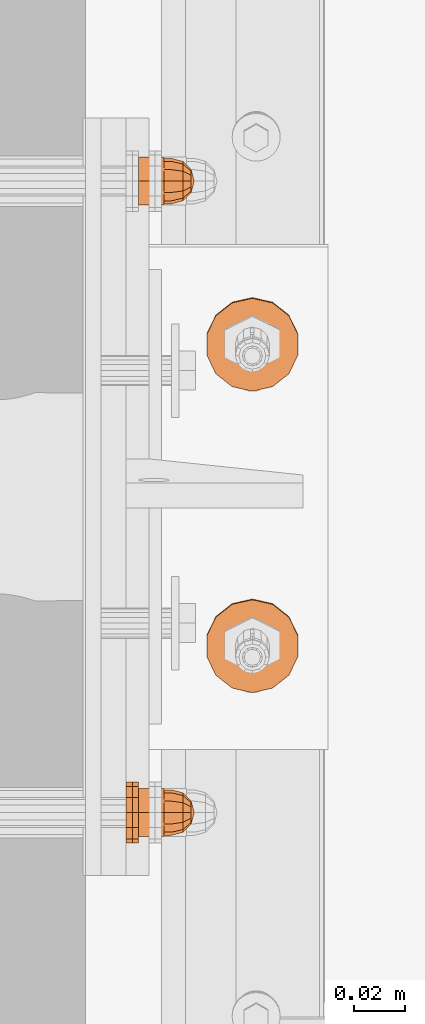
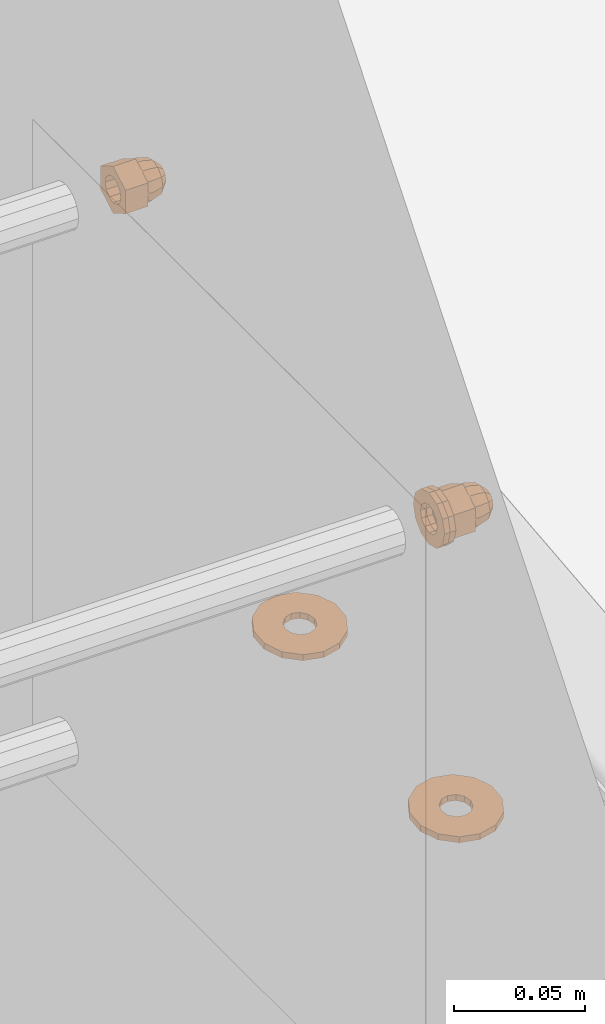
# One storey, part 108 of 162: 6 proxies.
"""IFC2X3 building model written with IfcOpenShell, lengths in millimetres."""

from ifc_helpers import new_model, entity, si_unit, converted_unit, origin_with_axes, place, context, project, spatial, faceted_brep, material, element, save


model = new_model("IFC2X3")

# Units and contexts
model_context = context("Model", 3, precision=1e-09, world=origin_with_axes())
ifc_project = project(units=[si_unit("LENGTHUNIT", "METRE", prefix="MILLI"), si_unit("AREAUNIT", "SQUARE_METRE"), si_unit("VOLUMEUNIT", "CUBIC_METRE"), converted_unit("PLANEANGLEUNIT", "DEGREE", entity("IfcPlaneAngleMeasure", 0.01745329), si_unit("PLANEANGLEUNIT", "RADIAN"), dimensions=[0, 0, 0, 0, 0, 0, 0])], contexts=[model_context])

# Site, building, storey
site_placement = place(None, origin_with_axes())
site = spatial("IfcSite", under=ifc_project, at=site_placement, Name="Hermannstra?e 1a, 60318 Frankfurt", CompositionType="ELEMENT")
building_placement = place(site_placement, origin_with_axes())
building = spatial("IfcBuilding", under=site, at=building_placement, Name="Struktur 1", CompositionType="ELEMENT")
storey_placement = place(building_placement, origin_with_axes())
storey = spatial("IfcBuildingStorey", under=building, at=storey_placement, Name="Default Storey", CompositionType="ELEMENT", Elevation=0.0)

# Proxies
ifc_material_1 = material(Name="A4")
proxy_1_placement = place(None, origin_with_axes())
element("IfcBuildingElementProxy", 1, at=proxy_1_placement, inside=storey, material=ifc_material_1, ObjectType="-", context=model_context, shape_type="Brep", body=[
    faceted_brep([(2544.30936482, 1936.610081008, 17485.045442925), (2554.30936482, 1936.610081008, 17485.045442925), (2554.30936482, 1935.806233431, 17488.045442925), (2544.30936482, 1935.806233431, 17488.045442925), (2554.30936482, 1933.610081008, 17490.241595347), (2544.30936482, 1933.610081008, 17490.241595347), (2544.30936482, 1935.806233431, 17482.045442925), (2554.30936482, 1935.806233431, 17482.045442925), (2544.30936482, 1940.089950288, 17479.572237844), (2544.30936482, 1930.610081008, 17474.099032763), (2544.30936482, 1921.130211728, 17479.572237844), (2544.30936482, 1921.130211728, 17490.518648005), (2544.30936482, 1930.610081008, 17495.991853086), (2544.30936482, 1940.089950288, 17490.518648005), (2544.30936482, 1933.610081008, 17479.849290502), (2544.30936482, 1930.610081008, 17491.045442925), (2544.30936482, 1927.610081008, 17490.241595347), (2544.30936482, 1925.413928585, 17488.045442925), (2544.30936482, 1924.610081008, 17485.045442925), (2544.30936482, 1925.413928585, 17482.045442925), (2544.30936482, 1927.610081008, 17479.849290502), (2544.30936482, 1930.610081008, 17479.045442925), (2554.30936482, 1930.610081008, 17474.099032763), (2554.30936482, 1940.089950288, 17479.572237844), (2554.30936482, 1940.089950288, 17490.518648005), (2554.30936482, 1930.610081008, 17495.991853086), (2554.30936482, 1921.130211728, 17490.518648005), (2554.30936482, 1921.130211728, 17479.572237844), (2554.30936482, 1933.610081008, 17479.849290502), (2554.30936482, 1930.610081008, 17479.045442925), (2554.30936482, 1927.610081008, 17479.849290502), (2554.30936482, 1925.413928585, 17482.045442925), (2554.30936482, 1924.610081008, 17485.045442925), (2554.30936482, 1925.413928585, 17488.045442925), (2554.30936482, 1927.610081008, 17490.241595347), (2554.30936482, 1930.610081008, 17491.045442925)], [[[0, 1, 2, 3]], [[3, 2, 4, 5]], [[1, 0, 6, 7]], [[8, 9, 10, 11, 12, 13], [14, 6, 0, 3, 5, 15, 16, 17, 18, 19, 20, 21]], [[22, 23, 24, 25, 26, 27], [1, 7, 28, 29, 30, 31, 32, 33, 34, 35, 4, 2]], [[7, 6, 14, 28]], [[24, 23, 8, 13]], [[5, 4, 35, 15]], [[13, 12, 25, 24]], [[28, 14, 21, 29]], [[23, 22, 9, 8]], [[15, 35, 34, 16]], [[12, 11, 26, 25]], [[29, 21, 20, 30]], [[22, 27, 10, 9]], [[16, 34, 33, 17]], [[27, 26, 11, 10]], [[30, 20, 19, 31]], [[17, 33, 32, 18]], [[31, 19, 18, 32]]]),
    faceted_brep([(2554.30936482, 1930.610081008, 17476.045442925), (2557.30936482, 1930.610081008, 17476.045442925), (2557.30936482, 1926.110081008, 17477.251214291), (2554.30936482, 1926.110081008, 17477.251214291), (2554.30936482, 1935.110081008, 17477.251214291), (2557.30936482, 1935.110081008, 17477.251214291), (2557.30936482, 1938.404309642, 17489.545442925), (2557.30936482, 1935.110081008, 17492.839671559), (2557.30936482, 1930.610081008, 17494.045442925), (2557.30936482, 1926.110081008, 17492.839671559), (2557.30936482, 1922.815852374, 17489.545442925), (2557.30936482, 1921.610081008, 17485.045442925), (2557.30936482, 1922.815852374, 17480.545442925), (2557.30936482, 1938.404309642, 17480.545442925), (2557.30936482, 1939.610081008, 17485.045442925), (2554.30936482, 1922.815852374, 17489.545442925), (2554.30936482, 1926.110081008, 17492.839671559), (2554.30936482, 1930.610081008, 17494.045442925), (2554.30936482, 1935.110081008, 17492.839671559), (2554.30936482, 1938.404309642, 17489.545442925), (2554.30936482, 1939.610081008, 17485.045442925), (2554.30936482, 1938.404309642, 17480.545442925), (2554.30936482, 1922.815852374, 17480.545442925), (2554.30936482, 1921.610081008, 17485.045442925)], [[[0, 1, 2, 3]], [[1, 0, 4, 5]], [[6, 7, 8, 9, 10, 11, 12, 2, 1, 5, 13, 14]], [[15, 16, 17, 18, 19, 20, 21, 4, 0, 3, 22, 23]], [[3, 2, 12, 22]], [[5, 4, 21, 13]], [[22, 12, 11, 23]], [[13, 21, 20, 14]], [[7, 18, 17, 8]], [[19, 6, 14, 20]], [[18, 7, 6, 19]], [[23, 11, 10, 15]], [[8, 17, 16, 9]], [[15, 10, 9, 16]]]),
    faceted_brep([(2557.30936482, 1938.404309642, 17480.545442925), (2561.80936482, 1937.360081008, 17481.148328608), (2561.80936482, 1934.507195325, 17478.295442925), (2557.30936482, 1935.110081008, 17477.251214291), (2557.30936482, 1922.815852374, 17489.545442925), (2557.30936482, 1926.110081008, 17492.839671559), (2557.30936482, 1930.610081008, 17494.045442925), (2557.30936482, 1935.110081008, 17492.839671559), (2557.30936482, 1938.404309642, 17489.545442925), (2557.30936482, 1939.610081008, 17485.045442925), (2557.30936482, 1930.610081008, 17476.045442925), (2557.30936482, 1926.110081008, 17477.251214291), (2557.30936482, 1922.815852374, 17480.545442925), (2557.30936482, 1921.610081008, 17485.045442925), (2561.80936482, 1930.610081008, 17477.251214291), (2561.80936482, 1938.404309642, 17485.045442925), (2565.103593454, 1935.110081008, 17485.045442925), (2565.103593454, 1934.507195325, 17482.795442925), (2561.80936482, 1926.712966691, 17478.295442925), (2565.103593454, 1932.860081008, 17481.148328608), (2561.80936482, 1937.360081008, 17488.942557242), (2565.103593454, 1934.507195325, 17487.295442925), (2565.103593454, 1930.610081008, 17480.545442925), (2566.30936482, 1930.610081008, 17485.045442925), (2561.80936482, 1934.507195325, 17491.795442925), (2565.103593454, 1932.860081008, 17488.942557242), (2561.80936482, 1930.610081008, 17492.839671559), (2561.80936482, 1923.860081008, 17481.148328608), (2565.103593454, 1928.360081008, 17481.148328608), (2565.103593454, 1930.610081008, 17489.545442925), (2561.80936482, 1926.712966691, 17491.795442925), (2565.103593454, 1928.360081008, 17488.942557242), (2561.80936482, 1922.815852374, 17485.045442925), (2565.103593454, 1926.712966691, 17482.795442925), (2561.80936482, 1923.860081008, 17488.942557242), (2565.103593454, 1926.712966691, 17487.295442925), (2565.103593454, 1926.110081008, 17485.045442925)], [[[0, 1, 2, 3]], [[4, 5, 6, 7, 8, 9, 0, 3, 10, 11, 12, 13]], [[3, 2, 14, 10]], [[15, 16, 17, 1]], [[1, 0, 9, 15]], [[10, 14, 18, 11]], [[1, 17, 19, 2]], [[16, 15, 20, 21]], [[2, 19, 22, 14]], [[23, 17, 16]], [[24, 25, 21, 20]], [[23, 16, 21]], [[24, 7, 6, 26]], [[20, 8, 7, 24]], [[15, 9, 8, 20]], [[11, 18, 27, 12]], [[14, 22, 28, 18]], [[23, 19, 17]], [[26, 29, 25, 24]], [[23, 21, 25]], [[23, 22, 19]], [[26, 6, 5, 30]], [[29, 26, 30, 31]], [[23, 25, 29]], [[12, 27, 32, 13]], [[18, 28, 33, 27]], [[23, 28, 22]], [[23, 29, 31]], [[23, 33, 28]], [[30, 5, 4, 34]], [[31, 30, 34, 35]], [[23, 31, 35]], [[13, 32, 34, 4]], [[27, 33, 36, 32]], [[23, 36, 33]], [[23, 35, 36]], [[35, 34, 32, 36]]]),
])
proxy_2_placement = place(None, origin_with_axes())
element("IfcBuildingElementProxy", 2, at=proxy_2_placement, inside=storey, material=ifc_material_1, ObjectType="-", context=model_context, shape_type="Brep", body=[
    faceted_brep([(2544.30936482, 1686.610081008, 17485.045442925), (2554.30936482, 1686.610081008, 17485.045442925), (2554.30936482, 1685.806233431, 17488.045442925), (2544.30936482, 1685.806233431, 17488.045442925), (2554.30936482, 1683.610081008, 17490.241595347), (2544.30936482, 1683.610081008, 17490.241595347), (2544.30936482, 1685.806233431, 17482.045442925), (2554.30936482, 1685.806233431, 17482.045442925), (2544.30936482, 1690.089950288, 17479.572237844), (2544.30936482, 1680.610081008, 17474.099032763), (2544.30936482, 1671.130211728, 17479.572237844), (2544.30936482, 1671.130211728, 17490.518648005), (2544.30936482, 1680.610081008, 17495.991853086), (2544.30936482, 1690.089950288, 17490.518648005), (2544.30936482, 1683.610081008, 17479.849290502), (2544.30936482, 1680.610081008, 17491.045442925), (2544.30936482, 1677.610081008, 17490.241595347), (2544.30936482, 1675.413928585, 17488.045442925), (2544.30936482, 1674.610081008, 17485.045442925), (2544.30936482, 1675.413928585, 17482.045442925), (2544.30936482, 1677.610081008, 17479.849290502), (2544.30936482, 1680.610081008, 17479.045442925), (2554.30936482, 1680.610081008, 17474.099032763), (2554.30936482, 1690.089950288, 17479.572237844), (2554.30936482, 1690.089950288, 17490.518648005), (2554.30936482, 1680.610081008, 17495.991853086), (2554.30936482, 1671.130211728, 17490.518648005), (2554.30936482, 1671.130211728, 17479.572237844), (2554.30936482, 1683.610081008, 17479.849290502), (2554.30936482, 1680.610081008, 17479.045442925), (2554.30936482, 1677.610081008, 17479.849290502), (2554.30936482, 1675.413928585, 17482.045442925), (2554.30936482, 1674.610081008, 17485.045442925), (2554.30936482, 1675.413928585, 17488.045442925), (2554.30936482, 1677.610081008, 17490.241595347), (2554.30936482, 1680.610081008, 17491.045442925)], [[[0, 1, 2, 3]], [[3, 2, 4, 5]], [[1, 0, 6, 7]], [[8, 9, 10, 11, 12, 13], [14, 6, 0, 3, 5, 15, 16, 17, 18, 19, 20, 21]], [[22, 23, 24, 25, 26, 27], [1, 7, 28, 29, 30, 31, 32, 33, 34, 35, 4, 2]], [[7, 6, 14, 28]], [[24, 23, 8, 13]], [[5, 4, 35, 15]], [[13, 12, 25, 24]], [[28, 14, 21, 29]], [[23, 22, 9, 8]], [[15, 35, 34, 16]], [[12, 11, 26, 25]], [[29, 21, 20, 30]], [[22, 27, 10, 9]], [[16, 34, 33, 17]], [[27, 26, 11, 10]], [[30, 20, 19, 31]], [[17, 33, 32, 18]], [[31, 19, 18, 32]]]),
    faceted_brep([(2554.30936482, 1680.610081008, 17476.045442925), (2557.30936482, 1680.610081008, 17476.045442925), (2557.30936482, 1676.110081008, 17477.251214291), (2554.30936482, 1676.110081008, 17477.251214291), (2554.30936482, 1685.110081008, 17477.251214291), (2557.30936482, 1685.110081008, 17477.251214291), (2557.30936482, 1688.404309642, 17489.545442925), (2557.30936482, 1685.110081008, 17492.839671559), (2557.30936482, 1680.610081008, 17494.045442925), (2557.30936482, 1676.110081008, 17492.839671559), (2557.30936482, 1672.815852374, 17489.545442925), (2557.30936482, 1671.610081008, 17485.045442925), (2557.30936482, 1672.815852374, 17480.545442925), (2557.30936482, 1688.404309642, 17480.545442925), (2557.30936482, 1689.610081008, 17485.045442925), (2554.30936482, 1672.815852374, 17489.545442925), (2554.30936482, 1676.110081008, 17492.839671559), (2554.30936482, 1680.610081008, 17494.045442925), (2554.30936482, 1685.110081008, 17492.839671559), (2554.30936482, 1688.404309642, 17489.545442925), (2554.30936482, 1689.610081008, 17485.045442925), (2554.30936482, 1688.404309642, 17480.545442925), (2554.30936482, 1672.815852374, 17480.545442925), (2554.30936482, 1671.610081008, 17485.045442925)], [[[0, 1, 2, 3]], [[1, 0, 4, 5]], [[6, 7, 8, 9, 10, 11, 12, 2, 1, 5, 13, 14]], [[15, 16, 17, 18, 19, 20, 21, 4, 0, 3, 22, 23]], [[3, 2, 12, 22]], [[5, 4, 21, 13]], [[22, 12, 11, 23]], [[13, 21, 20, 14]], [[7, 18, 17, 8]], [[19, 6, 14, 20]], [[18, 7, 6, 19]], [[23, 11, 10, 15]], [[8, 17, 16, 9]], [[15, 10, 9, 16]]]),
    faceted_brep([(2557.30936482, 1688.404309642, 17480.545442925), (2561.80936482, 1687.360081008, 17481.148328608), (2561.80936482, 1684.507195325, 17478.295442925), (2557.30936482, 1685.110081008, 17477.251214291), (2557.30936482, 1672.815852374, 17489.545442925), (2557.30936482, 1676.110081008, 17492.839671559), (2557.30936482, 1680.610081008, 17494.045442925), (2557.30936482, 1685.110081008, 17492.839671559), (2557.30936482, 1688.404309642, 17489.545442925), (2557.30936482, 1689.610081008, 17485.045442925), (2557.30936482, 1680.610081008, 17476.045442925), (2557.30936482, 1676.110081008, 17477.251214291), (2557.30936482, 1672.815852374, 17480.545442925), (2557.30936482, 1671.610081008, 17485.045442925), (2561.80936482, 1680.610081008, 17477.251214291), (2561.80936482, 1688.404309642, 17485.045442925), (2565.103593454, 1685.110081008, 17485.045442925), (2565.103593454, 1684.507195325, 17482.795442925), (2561.80936482, 1676.712966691, 17478.295442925), (2565.103593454, 1682.860081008, 17481.148328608), (2561.80936482, 1687.360081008, 17488.942557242), (2565.103593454, 1684.507195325, 17487.295442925), (2565.103593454, 1680.610081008, 17480.545442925), (2566.30936482, 1680.610081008, 17485.045442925), (2561.80936482, 1684.507195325, 17491.795442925), (2565.103593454, 1682.860081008, 17488.942557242), (2561.80936482, 1680.610081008, 17492.839671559), (2561.80936482, 1673.860081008, 17481.148328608), (2565.103593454, 1678.360081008, 17481.148328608), (2565.103593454, 1680.610081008, 17489.545442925), (2561.80936482, 1676.712966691, 17491.795442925), (2565.103593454, 1678.360081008, 17488.942557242), (2561.80936482, 1672.815852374, 17485.045442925), (2565.103593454, 1676.712966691, 17482.795442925), (2561.80936482, 1673.860081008, 17488.942557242), (2565.103593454, 1676.712966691, 17487.295442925), (2565.103593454, 1676.110081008, 17485.045442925)], [[[0, 1, 2, 3]], [[4, 5, 6, 7, 8, 9, 0, 3, 10, 11, 12, 13]], [[3, 2, 14, 10]], [[15, 16, 17, 1]], [[1, 0, 9, 15]], [[10, 14, 18, 11]], [[1, 17, 19, 2]], [[16, 15, 20, 21]], [[2, 19, 22, 14]], [[23, 17, 16]], [[24, 25, 21, 20]], [[23, 16, 21]], [[24, 7, 6, 26]], [[20, 8, 7, 24]], [[15, 9, 8, 20]], [[11, 18, 27, 12]], [[14, 22, 28, 18]], [[23, 19, 17]], [[26, 29, 25, 24]], [[23, 21, 25]], [[23, 22, 19]], [[26, 6, 5, 30]], [[29, 26, 30, 31]], [[23, 25, 29]], [[12, 27, 32, 13]], [[18, 28, 33, 27]], [[23, 28, 22]], [[23, 29, 31]], [[23, 33, 28]], [[30, 5, 4, 34]], [[31, 30, 34, 35]], [[23, 31, 35]], [[13, 32, 34, 4]], [[27, 33, 36, 32]], [[23, 36, 33]], [[23, 35, 36]], [[35, 34, 32, 36]]]),
])
ifc_material_2 = material(Name="S235JR")
proxy_3_placement = place(None, origin_with_axes())
element("IfcBuildingElementProxy", 3, at=proxy_3_placement, inside=storey, material=ifc_material_2, ObjectType="-", context=model_context, shape_type="Brep", body=[
    faceted_brep([(2603.773247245, 1854.64624866, 17302.155285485), (2603.773247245, 1854.33266327, 17305.138851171), (2597.336213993, 1849.227421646, 17304.602268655), (2597.336213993, 1849.541007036, 17301.618702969), (2607.345531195, 1870.211708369, 17303.791281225), (2607.345531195, 1862.023536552, 17302.930669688), (2589.309364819, 1847.718967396, 17301.427198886), (2581.282515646, 1849.541007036, 17301.618702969), (2574.845482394, 1854.64624866, 17302.155285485), (2571.273198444, 1862.023536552, 17302.930669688), (2571.273198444, 1870.211708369, 17303.791281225), (2574.845482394, 1877.588996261, 17304.566665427), (2581.282515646, 1882.694237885, 17305.103247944), (2589.309364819, 1884.516277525, 17305.294752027), (2597.336213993, 1882.694237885, 17305.103247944), (2603.773247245, 1877.588996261, 17304.566665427), (2594.938529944, 1862.8854263, 17303.02125795), (2595.809364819, 1866.11762246, 17303.360975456), (2594.938529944, 1869.34981862, 17303.700692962), (2592.559364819, 1871.715950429, 17303.949383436), (2589.309364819, 1872.58201478, 17304.040410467), (2586.059364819, 1871.715950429, 17303.949383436), (2583.680199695, 1869.34981862, 17303.700692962), (2582.809364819, 1866.11762246, 17303.360975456), (2583.680199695, 1862.8854263, 17303.02125795), (2586.059364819, 1860.519294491, 17302.772567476), (2589.309364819, 1859.653230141, 17302.681540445), (2592.559364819, 1860.519294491, 17302.772567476), (2581.282515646, 1849.227421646, 17304.602268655), (2589.309364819, 1847.405382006, 17304.410764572), (2607.345531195, 1861.709951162, 17305.914235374), (2607.345531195, 1869.898122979, 17306.774846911), (2603.773247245, 1877.275410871, 17307.550231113), (2597.336213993, 1882.380652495, 17308.08681363), (2589.309364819, 1884.202692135, 17308.278317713), (2581.282515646, 1882.380652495, 17308.08681363), (2574.845482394, 1877.275410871, 17307.550231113), (2571.273198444, 1869.898122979, 17306.774846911), (2571.273198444, 1861.709951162, 17305.914235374), (2574.845482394, 1854.33266327, 17305.138851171), (2589.309364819, 1859.339644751, 17305.665106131), (2586.059364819, 1860.205709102, 17305.756133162), (2583.680199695, 1862.571840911, 17306.004823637), (2582.809364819, 1865.804037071, 17306.344541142), (2583.680199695, 1869.036233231, 17306.684258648), (2586.059364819, 1871.40236504, 17306.932949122), (2589.309364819, 1872.26842939, 17307.023976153), (2592.559364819, 1871.40236504, 17306.932949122), (2594.938529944, 1869.036233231, 17306.684258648), (2595.809364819, 1865.804037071, 17306.344541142), (2594.938529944, 1862.571840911, 17306.004823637), (2592.559364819, 1860.205709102, 17305.756133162)], [[[0, 1, 2, 3]], [[4, 5, 0, 3, 6, 7, 8, 9, 10, 11, 12, 13, 14, 15], [16, 17, 18, 19, 20, 21, 22, 23, 24, 25, 26, 27]], [[28, 29, 2, 1, 30, 31, 32, 33, 34, 35, 36, 37, 38, 39], [40, 41, 42, 43, 44, 45, 46, 47, 48, 49, 50, 51]], [[1, 0, 5, 30]], [[27, 51, 50, 16]], [[51, 27, 26, 40]], [[3, 2, 29, 6]], [[30, 5, 4, 31]], [[16, 50, 49, 17]], [[40, 26, 25, 41]], [[6, 29, 28, 7]], [[31, 4, 15, 32]], [[17, 49, 48, 18]], [[41, 25, 24, 42]], [[7, 28, 39, 8]], [[32, 15, 14, 33]], [[18, 48, 47, 19]], [[42, 24, 23, 43]], [[8, 39, 38, 9]], [[33, 14, 13, 34]], [[19, 47, 46, 20]], [[22, 44, 43, 23]], [[9, 38, 37, 10]], [[45, 21, 20, 46]], [[44, 22, 21, 45]], [[34, 13, 12, 35]], [[10, 37, 36, 11]], [[35, 12, 11, 36]]]),
])
proxy_4_placement = place(None, origin_with_axes())
element("IfcBuildingElementProxy", 4, at=proxy_4_placement, inside=storey, material=ifc_material_2, ObjectType="-", context=model_context, shape_type="Brep", body=[
    faceted_brep([(2603.773247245, 1735.303621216, 17289.611869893), (2603.773247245, 1734.990035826, 17292.595435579), (2597.336213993, 1729.884794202, 17292.058853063), (2597.336213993, 1730.198379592, 17289.075287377), (2607.345531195, 1750.869080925, 17291.247865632), (2607.345531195, 1742.680909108, 17290.387254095), (2589.309364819, 1728.376339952, 17288.883783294), (2581.282515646, 1730.198379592, 17289.075287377), (2574.845482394, 1735.303621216, 17289.611869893), (2571.273198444, 1742.680909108, 17290.387254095), (2571.273198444, 1750.869080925, 17291.247865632), (2574.845482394, 1758.246368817, 17292.023249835), (2581.282515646, 1763.35161044, 17292.559832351), (2589.309364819, 1765.173650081, 17292.751336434), (2597.336213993, 1763.35161044, 17292.559832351), (2603.773247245, 1758.246368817, 17292.023249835), (2594.938529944, 1743.542798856, 17290.477842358), (2595.809364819, 1746.774995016, 17290.817559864), (2594.938529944, 1750.007191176, 17291.15727737), (2592.559364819, 1752.373322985, 17291.405967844), (2589.309364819, 1753.239387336, 17291.496994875), (2586.059364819, 1752.373322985, 17291.405967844), (2583.680199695, 1750.007191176, 17291.15727737), (2582.809364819, 1746.774995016, 17290.817559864), (2583.680199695, 1743.542798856, 17290.477842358), (2586.059364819, 1741.176667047, 17290.229151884), (2589.309364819, 1740.310602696, 17290.138124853), (2592.559364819, 1741.176667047, 17290.229151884), (2581.282515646, 1729.884794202, 17292.058853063), (2589.309364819, 1728.062754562, 17291.86734898), (2607.345531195, 1742.367323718, 17293.370819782), (2607.345531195, 1750.555495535, 17294.231431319), (2603.773247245, 1757.932783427, 17295.006815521), (2597.336213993, 1763.038025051, 17295.543398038), (2589.309364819, 1764.860064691, 17295.734902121), (2581.282515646, 1763.038025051, 17295.543398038), (2574.845482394, 1757.932783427, 17295.006815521), (2571.273198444, 1750.555495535, 17294.231431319), (2571.273198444, 1742.367323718, 17293.370819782), (2574.845482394, 1734.990035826, 17292.595435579), (2589.309364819, 1739.997017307, 17293.121690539), (2586.059364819, 1740.863081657, 17293.21271757), (2583.680199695, 1743.229213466, 17293.461408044), (2582.809364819, 1746.461409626, 17293.80112555), (2583.680199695, 1749.693605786, 17294.140843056), (2586.059364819, 1752.059737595, 17294.38953353), (2589.309364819, 1752.925801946, 17294.480560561), (2592.559364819, 1752.059737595, 17294.38953353), (2594.938529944, 1749.693605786, 17294.140843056), (2595.809364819, 1746.461409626, 17293.80112555), (2594.938529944, 1743.229213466, 17293.461408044), (2592.559364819, 1740.863081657, 17293.21271757)], [[[0, 1, 2, 3]], [[4, 5, 0, 3, 6, 7, 8, 9, 10, 11, 12, 13, 14, 15], [16, 17, 18, 19, 20, 21, 22, 23, 24, 25, 26, 27]], [[28, 29, 2, 1, 30, 31, 32, 33, 34, 35, 36, 37, 38, 39], [40, 41, 42, 43, 44, 45, 46, 47, 48, 49, 50, 51]], [[1, 0, 5, 30]], [[27, 51, 50, 16]], [[51, 27, 26, 40]], [[3, 2, 29, 6]], [[30, 5, 4, 31]], [[16, 50, 49, 17]], [[40, 26, 25, 41]], [[6, 29, 28, 7]], [[31, 4, 15, 32]], [[17, 49, 48, 18]], [[41, 25, 24, 42]], [[7, 28, 39, 8]], [[32, 15, 14, 33]], [[18, 48, 47, 19]], [[42, 24, 23, 43]], [[8, 39, 38, 9]], [[33, 14, 13, 34]], [[19, 47, 46, 20]], [[22, 44, 43, 23]], [[9, 38, 37, 10]], [[45, 21, 20, 46]], [[44, 22, 21, 45]], [[34, 13, 12, 35]], [[10, 37, 36, 11]], [[35, 12, 11, 36]]]),
])
ifc_material_3 = material(Name="Kunststoff")
proxy_5_placement = place(None, origin_with_axes())
element("IfcBuildingElementProxy", 5, at=proxy_5_placement, inside=storey, material=ifc_material_3, ObjectType="-", context=model_context, shape_type="Brep", body=[
    faceted_brep([(2541.80936482, 1691.002385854, 17479.045442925), (2539.30936482, 1691.002385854, 17479.045442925), (2539.30936482, 1692.610081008, 17485.045442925), (2541.80936482, 1692.610081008, 17485.045442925), (2539.30936482, 1686.610081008, 17474.653138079), (2539.30936482, 1680.610081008, 17473.045442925), (2539.30936482, 1674.610081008, 17474.653138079), (2539.30936482, 1670.217776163, 17479.045442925), (2539.30936482, 1668.610081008, 17485.045442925), (2539.30936482, 1670.217776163, 17491.045442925), (2539.30936482, 1674.610081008, 17495.43774777), (2539.30936482, 1680.610081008, 17497.045442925), (2539.30936482, 1686.610081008, 17495.43774777), (2539.30936482, 1691.002385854, 17491.045442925), (2539.30936482, 1683.860081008, 17479.4162778), (2539.30936482, 1686.239246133, 17481.795442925), (2539.30936482, 1687.110081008, 17485.045442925), (2539.30936482, 1686.239246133, 17488.295442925), (2539.30936482, 1683.860081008, 17490.674608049), (2539.30936482, 1680.610081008, 17491.545442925), (2539.30936482, 1677.360081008, 17490.674608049), (2539.30936482, 1674.980915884, 17488.295442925), (2539.30936482, 1674.110081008, 17485.045442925), (2539.30936482, 1674.980915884, 17481.795442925), (2539.30936482, 1677.360081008, 17479.4162778), (2539.30936482, 1680.610081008, 17478.545442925), (2541.80936482, 1687.110081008, 17485.045442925), (2541.80936482, 1686.239246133, 17481.795442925), (2541.80936482, 1686.610081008, 17474.653138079), (2541.80936482, 1691.002385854, 17491.045442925), (2541.80936482, 1686.610081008, 17495.43774777), (2541.80936482, 1680.610081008, 17497.045442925), (2541.80936482, 1674.610081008, 17495.43774777), (2541.80936482, 1670.217776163, 17491.045442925), (2541.80936482, 1668.610081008, 17485.045442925), (2541.80936482, 1670.217776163, 17479.045442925), (2541.80936482, 1674.610081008, 17474.653138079), (2541.80936482, 1680.610081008, 17473.045442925), (2541.80936482, 1683.860081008, 17479.4162778), (2541.80936482, 1680.610081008, 17478.545442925), (2541.80936482, 1677.360081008, 17479.4162778), (2541.80936482, 1674.980915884, 17481.795442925), (2541.80936482, 1674.110081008, 17485.045442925), (2541.80936482, 1674.980915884, 17488.295442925), (2541.80936482, 1677.360081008, 17490.674608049), (2541.80936482, 1680.610081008, 17491.545442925), (2541.80936482, 1683.860081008, 17490.674608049), (2541.80936482, 1686.239246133, 17488.295442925)], [[[0, 1, 2, 3]], [[1, 4, 5, 6, 7, 8, 9, 10, 11, 12, 13, 2], [14, 15, 16, 17, 18, 19, 20, 21, 22, 23, 24, 25]], [[26, 16, 15, 27]], [[28, 0, 3, 29, 30, 31, 32, 33, 34, 35, 36, 37], [26, 27, 38, 39, 40, 41, 42, 43, 44, 45, 46, 47]], [[1, 0, 28, 4]], [[16, 26, 47, 17]], [[3, 2, 13, 29]], [[27, 15, 14, 38]], [[4, 28, 37, 5]], [[17, 47, 46, 18]], [[29, 13, 12, 30]], [[38, 14, 25, 39]], [[18, 46, 45, 19]], [[5, 37, 36, 6]], [[39, 25, 24, 40]], [[30, 12, 11, 31]], [[19, 45, 44, 20]], [[6, 36, 35, 7]], [[40, 24, 23, 41]], [[31, 11, 10, 32]], [[20, 44, 43, 21]], [[7, 35, 34, 8]], [[41, 23, 22, 42]], [[32, 10, 9, 33]], [[21, 43, 42, 22]], [[8, 34, 33, 9]]]),
])
proxy_6_placement = place(None, origin_with_axes())
element("IfcBuildingElementProxy", 6, at=proxy_6_placement, inside=storey, material=ifc_material_1, ObjectType="-", context=model_context, shape_type="Brep", body=[
    faceted_brep([(2544.30936482, 1670.217776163, 17479.045442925), (2541.80936482, 1670.217776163, 17479.045442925), (2541.80936482, 1674.610081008, 17474.653138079), (2544.30936482, 1674.610081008, 17474.653138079), (2544.30936482, 1680.610081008, 17473.045442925), (2544.30936482, 1686.610081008, 17474.653138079), (2544.30936482, 1691.002385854, 17479.045442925), (2544.30936482, 1692.610081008, 17485.045442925), (2544.30936482, 1691.002385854, 17491.045442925), (2544.30936482, 1686.610081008, 17495.43774777), (2544.30936482, 1680.610081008, 17497.045442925), (2544.30936482, 1674.610081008, 17495.43774777), (2544.30936482, 1670.217776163, 17491.045442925), (2544.30936482, 1668.610081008, 17485.045442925), (2544.30936482, 1683.860081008, 17479.4162778), (2544.30936482, 1680.610081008, 17478.545442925), (2544.30936482, 1677.360081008, 17479.4162778), (2544.30936482, 1674.980915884, 17481.795442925), (2544.30936482, 1674.110081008, 17485.045442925), (2544.30936482, 1674.980915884, 17488.295442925), (2544.30936482, 1677.360081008, 17490.674608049), (2544.30936482, 1680.610081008, 17491.545442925), (2544.30936482, 1683.860081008, 17490.674608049), (2544.30936482, 1686.239246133, 17488.295442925), (2544.30936482, 1687.110081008, 17485.045442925), (2544.30936482, 1686.239246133, 17481.795442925), (2541.80936482, 1668.610081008, 17485.045442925), (2541.80936482, 1670.217776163, 17491.045442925), (2541.80936482, 1674.610081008, 17495.43774777), (2541.80936482, 1680.610081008, 17497.045442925), (2541.80936482, 1686.610081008, 17495.43774777), (2541.80936482, 1691.002385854, 17491.045442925), (2541.80936482, 1692.610081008, 17485.045442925), (2541.80936482, 1691.002385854, 17479.045442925), (2541.80936482, 1686.610081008, 17474.653138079), (2541.80936482, 1680.610081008, 17473.045442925), (2541.80936482, 1674.110081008, 17485.045442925), (2541.80936482, 1674.980915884, 17481.795442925), (2541.80936482, 1677.360081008, 17479.4162778), (2541.80936482, 1680.610081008, 17478.545442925), (2541.80936482, 1683.860081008, 17479.4162778), (2541.80936482, 1686.239246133, 17481.795442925), (2541.80936482, 1687.110081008, 17485.045442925), (2541.80936482, 1686.239246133, 17488.295442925), (2541.80936482, 1683.860081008, 17490.674608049), (2541.80936482, 1680.610081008, 17491.545442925), (2541.80936482, 1677.360081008, 17490.674608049), (2541.80936482, 1674.980915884, 17488.295442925)], [[[0, 1, 2, 3]], [[3, 4, 5, 6, 7, 8, 9, 10, 11, 12, 13, 0], [14, 15, 16, 17, 18, 19, 20, 21, 22, 23, 24, 25]], [[1, 26, 27, 28, 29, 30, 31, 32, 33, 34, 35, 2], [36, 37, 38, 39, 40, 41, 42, 43, 44, 45, 46, 47]], [[37, 17, 16, 38]], [[1, 0, 13, 26]], [[17, 37, 36, 18]], [[38, 16, 15, 39]], [[3, 2, 35, 4]], [[26, 13, 12, 27]], [[18, 36, 47, 19]], [[39, 15, 14, 40]], [[4, 35, 34, 5]], [[27, 12, 11, 28]], [[19, 47, 46, 20]], [[40, 14, 25, 41]], [[5, 34, 33, 6]], [[24, 42, 41, 25]], [[28, 11, 10, 29]], [[20, 46, 45, 21]], [[23, 43, 42, 24]], [[6, 33, 32, 7]], [[44, 22, 21, 45]], [[43, 23, 22, 44]], [[29, 10, 9, 30]], [[7, 32, 31, 8]], [[30, 9, 8, 31]]]),
])

save(model, "model.ifc")
